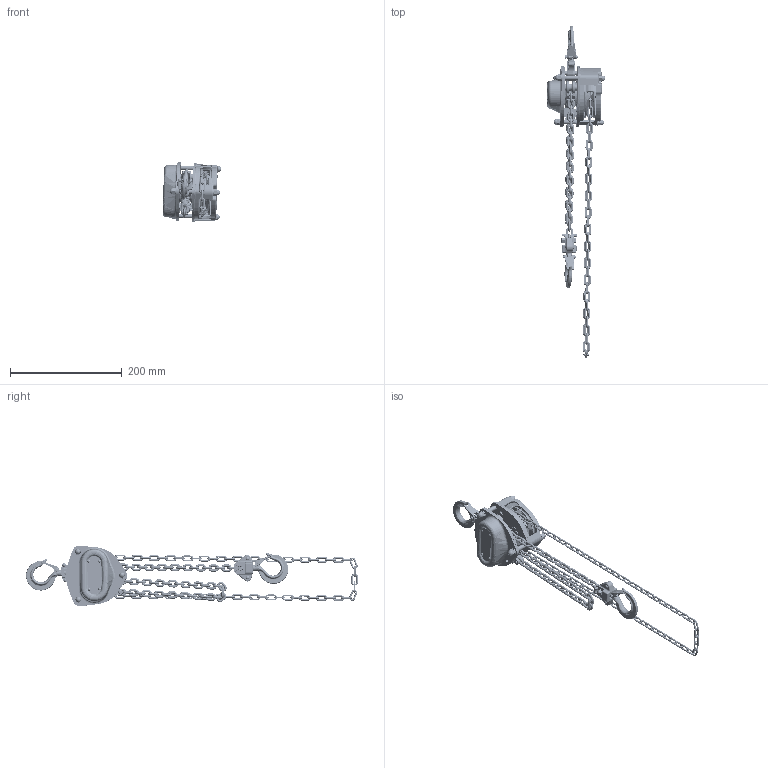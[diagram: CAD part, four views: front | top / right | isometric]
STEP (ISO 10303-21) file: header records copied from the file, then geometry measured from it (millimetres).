
FILE_DESCRIPTION (( 'STEP AP214' ), '1' );
FILE_NAME ('611-0.25t.STEP', '2023-02-15T09:44:11', ( '' ), ( '' ), 'SwSTEP 2.0', 'SolidWorks 2018', '' );
FILE_SCHEMA (( 'AUTOMOTIVE_DESIGN' ));
Length unit declared in the file: millimetre
Products named in the file (53): 藻笠え; 轴用弹性挡圈18; 盓傅裝; 絳謫; 翉婖帣遠殤; れ笭蟈謫; 衵Х啣; 淕极粣創ㄗ湮ㄘ; 秶雄ん釱; 酗粣; 0.25T喘欶; 双圈螺钉; 憔蛈; 250KG忒欶; 豪瑩謂喘謫; れ笭蟈沭 - 萵掛; 0.25T憔謫欶; 孔用弹性挡圈16; 裔倰蹟譫M6; 奻像粣; 轴用弹性 挡圈5; 裂种; 微型轴承（冲压滚针轴承）; 結蟈啣; 酘Х啣; 縐坰啣; 羲諳种1.5 15; 苤粣創ㄗ俋Х啣ㄘ; 粟銅菜え; 奻像殤; 狟像殤; 霧齪穩隊; れ笭蟈沭; 憔蛈粟銅; 611-0.25t; 双圈弹簧; 奻像殤穩隊; 狟像殤穩隊 - 萵掛; 翉婖帣遠种; 淕极粣創ㄗ苤ㄘ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
Assembly tree (90 placements, depth 2):
  611-0.25t
    0.25T喘欶
    0.25T憔謫欶
    250KG忒欶
    衵Х啣
    盓傅裝  x3
    酘Х啣
    憔蛈种  x2
    絳謫  x2
    詩杶  x4
    傻粣  x2
    え喘謫  x2
    れ笭蟈謫
    酗粣
    淕极粣創ㄗ湮ㄘ
    淕极粣創ㄗ苤ㄘ
    豪瑩謂喘謫
    煦蟈啣
    奻像粣
    苤粣創ㄗ俋Х啣ㄘ
    憔蛈  x2
    憔蛈粟銅  x2
    秶雄ん釱
    藻笠え  x2
    憔謫
    忒蟈謫
    翉婖帣遠殤
    翉婖帣遠种
    結蟈啣  x2
    奻像殤  x2
    裂像  x2
    双圈弹簧  x2
    縐坰啣  x2
    裔倰蹟譫M6  x6
    粟銅菜え  x7
    攝韓滅侂蹟譫M6
    奻像殤穩隊  x2
    双圈螺钉  x2
    攝韓滅侂蹟譫M4  x2
    羲諳种1.5 15  x2
    轴用弹性 挡圈5  x2
    轴用弹性挡圈18
    孔用弹性挡圈16
    微型轴承（冲压滚针轴承）
    狟像殤  x2
    靡齪
    霧齪穩隊  x4
    裂种
    M5狟裂种蹟譫
    忒嶺蟈沭
    れ笭蟈沭
    れ笭蟈沭 - 萵掛
    狟像殤穩隊 - 萵掛  x2
Bounding box: 104.53 x 593.01 x 106.74 mm (x, y, z)
Volume: 336341.1 mm3; surface area: 298781.1 mm2
Topology: 192 solids, 194 shells, 5897 faces, 15104 edges, 9518 vertices
Faces by surface type: cylinder 2195, plane 1599, torus 1017, bspline 718, cone 320, sphere 48
Entity records: 180061 total; most frequent: CARTESIAN_POINT 67866, ORIENTED_EDGE 22812, DIRECTION 22747, EDGE_CURVE 11406, AXIS2_PLACEMENT_3D 9399, VERTEX_POINT 7164, CIRCLE 5339, EDGE_LOOP 4836
